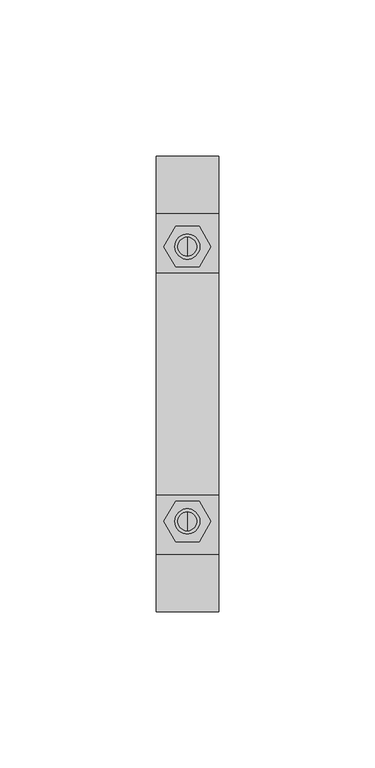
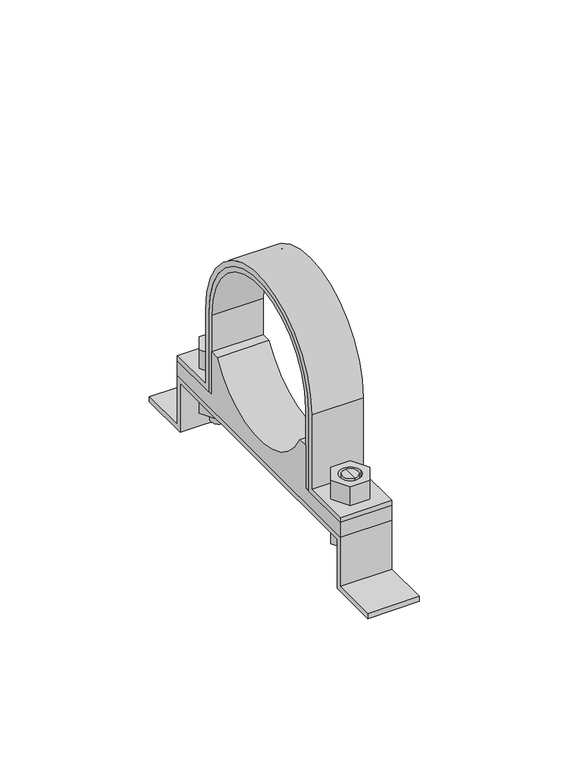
"""IFC4 building model written with IfcOpenShell, lengths in millimetres: valve geometry, Superfix DG3 Clamp : Superfix DG3 Clamp."""

from ifc_helpers import new_model, si_unit, point, frame, frame_2d, origin, place, context, project, spatial, polyline, circle_curve, trimmed, segment, composite_curve, outline, extrude, source, transform, mapped, element, save
from ifc_brep_helpers import plane_surface, cylinder_surface, advanced_brep


def valve_33040f4a(model_context):
    return source(origin(), model_context, "Body", "SolidModel", [
        advanced_brep(
        [(0.0, 47.0, 7.0), (0.0, 41.0, 7.0), (0.0, 41.0, 20.0), (0.0, 47.0, 20.0), (0.0, 44.0, 7.0)],
        [
            (0, 1, circle_curve(frame((0.0, 44.0, 7.0), z_axis=(0.0, 0.0, 1.0), x_axis=(0.0, 1.0, 0.0)), 3.0)),
            (1, 2),
            (2, 3, circle_curve(frame((0.0, 44.0, 20.0), z_axis=(0.0, 0.0, -1.0), x_axis=(0.0, 1.0, 0.0)), 3.0)),
            (3, 0),
            (1, 0, circle_curve(frame((0.0, 44.0, 7.0), z_axis=(0.0, 0.0, 1.0), x_axis=(0.0, 1.0, 0.0)), 3.0)),
            (3, 2, circle_curve(frame((0.0, 44.0, 20.0), z_axis=(0.0, 0.0, -1.0), x_axis=(0.0, 1.0, 0.0)), 3.0)),
            (0, 4),
            (4, 1),
        ],
        [
            cylinder_surface(frame((0.0, 44.0, 58.7806094), z_axis=(0.0, 0.0, 1.0), x_axis=(0.0, 1.0, 0.0)), 3.0),
            plane_surface(frame((0.0, 44.0, 7.0), z_axis=(0.0, 0.0, -1.0), x_axis=(0.0, 1.0, 0.0))),
            plane_surface(frame((13.75, -54.5, 20.0), z_axis=(0.0, 0.0, 1.0), x_axis=(-1.0, 0.0, 0.0))),
        ],
        [
            (0, [[1, 2, 3, 4]]),
            (0, [[5, -4, 6, -2]]),
            (1, [[-1, 7, 8]]),
            (1, [[-5, -8, -7]]),
            (2, [[-3, -6]]),
        ],
    ),
        advanced_brep(
        [(0.0, 41.0, 38.0), (0.0, 47.0, 38.0), (0.0, 47.0, 28.0), (0.0, 41.0, 28.0), (0.0, 44.0, 38.0)],
        [
            (0, 1, circle_curve(frame((0.0, 44.0, 38.0), z_axis=(0.0, 0.0, -1.0), x_axis=(0.0, 1.0, 0.0)), 3.0)),
            (1, 2),
            (2, 3, circle_curve(frame((0.0, 44.0, 28.0), z_axis=(0.0, 0.0, 1.0), x_axis=(0.0, 1.0, 0.0)), 3.0)),
            (3, 0),
            (1, 0, circle_curve(frame((0.0, 44.0, 38.0), z_axis=(0.0, 0.0, -1.0), x_axis=(0.0, 1.0, 0.0)), 3.0)),
            (3, 2, circle_curve(frame((0.0, 44.0, 28.0), z_axis=(0.0, 0.0, 1.0), x_axis=(0.0, 1.0, 0.0)), 3.0)),
            (0, 4),
            (4, 1),
        ],
        [
            cylinder_surface(frame((0.0, 44.0, 58.7806094), z_axis=(0.0, 0.0, 1.0), x_axis=(0.0, 1.0, 0.0)), 3.0),
            plane_surface(frame((0.0, 44.0, 38.0), z_axis=(0.0, 0.0, 1.0), x_axis=(0.0, 1.0, 0.0))),
            plane_surface(frame((13.75, 54.5, 28.0), z_axis=(0.0, 0.0, -1.0), x_axis=(-1.0, 0.0, 0.0))),
        ],
        [
            (0, [[1, 2, 3, 4]]),
            (0, [[5, -4, 6, -2]]),
            (1, [[-1, 7, 8]]),
            (1, [[-5, -8, -7]]),
            (2, [[-3, -6]]),
        ],
    ),
        advanced_brep(
        [(0.0, -47.0, 38.0), (0.0, -41.0, 38.0), (0.0, -41.0, 28.0), (0.0, -47.0, 28.0), (0.0, -44.0, 38.0)],
        [
            (0, 1, circle_curve(frame((0.0, -44.0, 38.0), z_axis=(0.0, 0.0, -1.0), x_axis=(0.0, -1.0, 0.0)), 3.0)),
            (1, 2),
            (2, 3, circle_curve(frame((0.0, -44.0, 28.0), z_axis=(0.0, 0.0, 1.0), x_axis=(0.0, -1.0, 0.0)), 3.0)),
            (3, 0),
            (1, 0, circle_curve(frame((0.0, -44.0, 38.0), z_axis=(0.0, 0.0, -1.0), x_axis=(0.0, -1.0, 0.0)), 3.0)),
            (3, 2, circle_curve(frame((0.0, -44.0, 28.0), z_axis=(0.0, 0.0, 1.0), x_axis=(0.0, -1.0, 0.0)), 3.0)),
            (0, 4),
            (4, 1),
        ],
        [
            cylinder_surface(frame((0.0, -44.0, 58.7806094), z_axis=(0.0, 0.0, -1.0), x_axis=(0.0, -1.0, 0.0)), 3.0),
            plane_surface(frame((0.0, -44.0, 38.0), z_axis=(0.0, 0.0, 1.0), x_axis=(0.0, -1.0, 0.0))),
            plane_surface(frame((13.75, 54.5, 28.0), z_axis=(0.0, 0.0, -1.0), x_axis=(-1.0, 0.0, 0.0))),
        ],
        [
            (0, [[1, 2, 3, 4]]),
            (0, [[5, -4, 6, -2]]),
            (1, [[-1, 7, 8]]),
            (1, [[-5, -8, -7]]),
            (2, [[-3, -6]]),
        ],
    ),
        advanced_brep(
        [(0.0, -41.0, 7.0), (0.0, -47.0, 7.0), (0.0, -47.0, 20.0), (0.0, -41.0, 20.0), (0.0, -44.0, 7.0)],
        [
            (0, 1, circle_curve(frame((0.0, -44.0, 7.0), z_axis=(0.0, 0.0, 1.0), x_axis=(0.0, -1.0, 0.0)), 3.0)),
            (1, 2),
            (2, 3, circle_curve(frame((0.0, -44.0, 20.0), z_axis=(0.0, 0.0, -1.0), x_axis=(0.0, -1.0, 0.0)), 3.0)),
            (3, 0),
            (1, 0, circle_curve(frame((0.0, -44.0, 7.0), z_axis=(0.0, 0.0, 1.0), x_axis=(0.0, -1.0, 0.0)), 3.0)),
            (3, 2, circle_curve(frame((0.0, -44.0, 20.0), z_axis=(0.0, 0.0, -1.0), x_axis=(0.0, -1.0, 0.0)), 3.0)),
            (0, 4),
            (4, 1),
        ],
        [
            cylinder_surface(frame((0.0, -44.0, 58.7806094), z_axis=(0.0, 0.0, -1.0), x_axis=(0.0, -1.0, 0.0)), 3.0),
            plane_surface(frame((0.0, -44.0, 7.0), z_axis=(0.0, 0.0, -1.0), x_axis=(0.0, -1.0, 0.0))),
            plane_surface(frame((13.75, -54.5, 20.0), z_axis=(0.0, 0.0, 1.0), x_axis=(-1.0, 0.0, 0.0))),
        ],
        [
            (0, [[1, 2, 3, 4]]),
            (0, [[5, -4, 6, -2]]),
            (1, [[-1, 7, 8]]),
            (1, [[-5, -8, -7]]),
            (2, [[-3, -6]]),
        ],
    ),
        extrude(outline(composite_curve([segment(trimmed(circle_curve(frame_2d((0.0, 60.5)), 33.5), [point((33.5, 60.5))], [point((-33.5, 60.5))], True, "CARTESIAN"), True, "CONTINUOUS"), segment(polyline([(-33.5, 60.5), (-33.5, 28.0), (-54.5, 28.0), (-54.5, 30.0), (-35.5, 30.0), (-35.5, 60.5)]), True, "CONTINUOUS"), segment(trimmed(circle_curve(frame_2d((0.0, 60.5)), 35.5), [point((-35.5, 60.5))], [point((35.5, 60.5))], False, "CARTESIAN"), True, "CONTINUOUS"), segment(polyline([(35.5, 60.5), (35.5, 30.0), (54.5, 30.0), (54.5, 28.0), (33.5, 28.0), (33.5, 60.5)]), True, "CONTINUOUS")], self_intersect=False)), frame((-10.0, 0.0, 0.0), z_axis=(1.0, 0.0, 0.0), x_axis=(0.0, 1.0, 0.0)), (0.0, 0.0, 1.0), 20.0),
        extrude(outline(polyline([(7.5055535, -44.0), (3.7527767, -50.5), (-3.7527767, -50.5), (-7.5055535, -44.0), (-3.7527767, -37.5), (3.7527767, -37.5), (7.5055535, -44.0)]), holes=[composite_curve([segment(trimmed(circle_curve(frame_2d((0.0, -44.0)), 4.0), [point((4.0, -44.0))], [point((-4.0, -44.0))], True, "CARTESIAN"), True, "CONTINUOUS"), segment(trimmed(circle_curve(frame_2d((0.0, -44.0)), 4.0), [point((-4.0, -44.0))], [point((4.0, -44.0))], True, "CARTESIAN"), True, "CONTINUOUS")], self_intersect=False)]), frame((0.0, 0.0, 30.0), z_axis=(0.0, 0.0, 1.0), x_axis=(1.0, 0.0, 0.0)), (0.0, 0.0, 1.0), 8.0),
        extrude(outline(polyline([(7.5055535, 44.0), (3.7527767, 37.5), (-3.7527767, 37.5), (-7.5055535, 44.0), (-3.7527767, 50.5), (3.7527767, 50.5), (7.5055535, 44.0)]), holes=[composite_curve([segment(trimmed(circle_curve(frame_2d((0.0, 44.0)), 4.0), [point((4.0, 44.0))], [point((-4.0, 44.0))], True, "CARTESIAN"), True, "CONTINUOUS"), segment(trimmed(circle_curve(frame_2d((0.0, 44.0)), 4.0), [point((-4.0, 44.0))], [point((4.0, 44.0))], True, "CARTESIAN"), True, "CONTINUOUS")], self_intersect=False)]), frame((0.0, 0.0, 30.0), z_axis=(0.0, 0.0, 1.0), x_axis=(1.0, 0.0, 0.0)), (0.0, 0.0, 1.0), 8.0),
        extrude(outline(polyline([(7.5055535, -44.0), (3.7527767, -50.5), (-3.7527767, -50.5), (-7.5055535, -44.0), (-3.7527767, -37.5), (3.7527767, -37.5), (7.5055535, -44.0)]), holes=[composite_curve([segment(trimmed(circle_curve(frame_2d((0.0, -44.0)), 4.0), [point((4.0, -44.0))], [point((-4.0, -44.0))], True, "CARTESIAN"), True, "CONTINUOUS"), segment(trimmed(circle_curve(frame_2d((0.0, -44.0)), 4.0), [point((-4.0, -44.0))], [point((4.0, -44.0))], True, "CARTESIAN"), True, "CONTINUOUS")], self_intersect=False)]), frame((0.0, 0.0, 12.0), z_axis=(0.0, 0.0, 1.0), x_axis=(1.0, 0.0, 0.0)), (0.0, 0.0, 1.0), 8.0),
        extrude(outline(polyline([(7.5055535, 44.0), (3.7527767, 37.5), (-3.7527767, 37.5), (-7.5055535, 44.0), (-3.7527767, 50.5), (3.7527767, 50.5), (7.5055535, 44.0)]), holes=[composite_curve([segment(trimmed(circle_curve(frame_2d((0.0, 44.0)), 4.0), [point((4.0, 44.0))], [point((-4.0, 44.0))], True, "CARTESIAN"), True, "CONTINUOUS"), segment(trimmed(circle_curve(frame_2d((0.0, 44.0)), 4.0), [point((-4.0, 44.0))], [point((4.0, 44.0))], True, "CARTESIAN"), True, "CONTINUOUS")], self_intersect=False)]), frame((0.0, 0.0, 12.0), z_axis=(0.0, 0.0, 1.0), x_axis=(1.0, 0.0, 0.0)), (0.0, 0.0, 1.0), 8.0),
        extrude(outline(composite_curve([segment(polyline([(-54.5, 22.0), (-54.5, 28.0), (-31.5, 28.0), (-31.5, 45.5), (-27.699278, 45.5)]), True, "CONTINUOUS"), segment(trimmed(circle_curve(frame_2d((0.0, 60.5)), 31.5), [point((-27.699278, 45.5))], [point((27.699278, 45.5))], True, "CARTESIAN"), True, "CONTINUOUS"), segment(polyline([(27.699278, 45.5), (31.5, 45.5), (31.5, 28.0), (54.5, 28.0), (54.5, 22.0), (-54.5, 22.0)]), True, "CONTINUOUS")], self_intersect=False)), frame((-10.0, 0.0, 0.0), z_axis=(1.0, 0.0, 0.0), x_axis=(0.0, 1.0, 0.0)), (0.0, 0.0, 1.0), 20.0),
        extrude(outline(polyline([(-73.0, 2.0), (-54.5, 2.0), (-54.5, 22.0), (0.0, 22.0), (54.5, 22.0), (54.5, 2.0), (73.0, 2.0), (73.0, 0.0), (52.5, 0.0), (52.5, 20.0), (0.0, 20.0), (-52.5, 20.0), (-52.5, 0.0), (-73.0, 0.0), (-73.0, 2.0)])), frame((-10.0, 0.0, 0.0), z_axis=(1.0, 0.0, 0.0), x_axis=(0.0, 1.0, 0.0)), (0.0, 0.0, 1.0), 20.0),
        extrude(outline(composite_curve([segment(trimmed(circle_curve(frame_2d((0.0, 60.5)), 31.5), [point((31.5, 60.5))], [point((-31.5, 60.5))], True, "CARTESIAN"), True, "CONTINUOUS"), segment(polyline([(-31.5, 60.5), (-31.5, 28.0), (-33.5, 28.0), (-33.5, 60.5)]), True, "CONTINUOUS"), segment(trimmed(circle_curve(frame_2d((0.0, 60.5)), 33.5), [point((-33.5, 60.5))], [point((33.5, 60.5))], False, "CARTESIAN"), True, "CONTINUOUS"), segment(polyline([(33.5, 60.5), (33.5, 28.0), (31.5, 28.0), (31.5, 60.5)]), True, "CONTINUOUS")], self_intersect=False)), frame((-10.0, 0.0, 0.0), z_axis=(1.0, 0.0, 0.0), x_axis=(0.0, 1.0, 0.0)), (0.0, 0.0, 1.0), 20.0),
    ])


if __name__ == "__main__":
    model = new_model("IFC4")
    model_context = context("Model", 3, world=origin())
    ifc_project = project(units=[si_unit("LENGTHUNIT", "METRE", prefix="MILLI")], contexts=[model_context])
    site = spatial("IfcSite", under=ifc_project)
    building = spatial("IfcBuilding", under=site)
    placement = place(None, origin())
    valve_shape = valve_33040f4a(model_context)
    element("IfcValve", 1, ObjectType="Superfix DG3 Clamp : Superfix DG3 Clamp", at=placement, inside=building, context=model_context, shape_type="MappedRepresentation", body=[
        mapped(valve_shape, transform((0.0, 0.0, 0.0), x_axis=(1.0, 0.0, 0.0), y_axis=(0.0, 1.0, 0.0), z_axis=(0.0, 0.0, 1.0))),
    ])
    save(model, "model.ifc")
